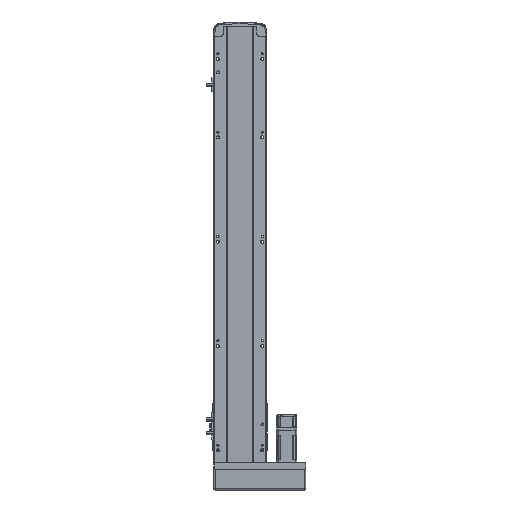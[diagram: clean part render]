
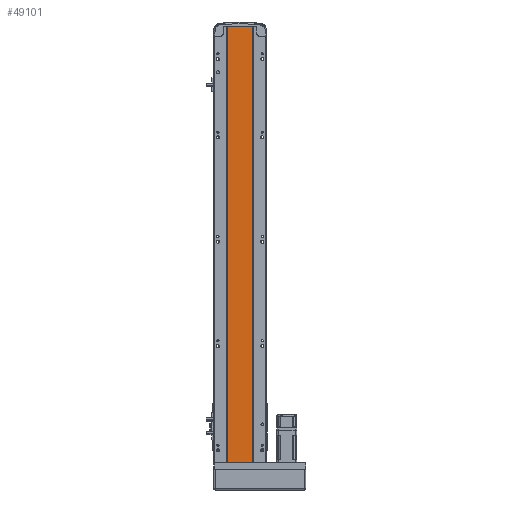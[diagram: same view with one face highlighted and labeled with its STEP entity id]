
A CAD part, front view. The second image highlights one B-rep face of the part: STEP entity #49101.
In plain terms, the highlighted planar face has unit normal (0, -1, 0).
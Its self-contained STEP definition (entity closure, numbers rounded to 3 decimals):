
#404 = FACE_OUTER_BOUND ( 'NONE', #24421, .T. ) ;
#674 = DIRECTION ( 'NONE',  ( 0., 0., -1. ) ) ;
#1092 = VECTOR ( 'NONE', #48972, 1000. ) ;
#2603 = VECTOR ( 'NONE', #674, 1000. ) ;
#3078 = CARTESIAN_POINT ( 'NONE',  ( -24.5, 2., 0. ) ) ;
#3079 = VECTOR ( 'NONE', #39915, 1000. ) ;
#3172 = ORIENTED_EDGE ( 'NONE', *, *, #41115, .F. ) ;
#3459 = DIRECTION ( 'NONE',  ( 0., 0., 1. ) ) ;
#6579 = CARTESIAN_POINT ( 'NONE',  ( 24.5, 2., 0. ) ) ;
#6709 = VECTOR ( 'NONE', #48455, 1000. ) ;
#8150 = CARTESIAN_POINT ( 'NONE',  ( 0., 2., 837. ) ) ;
#8730 = ORIENTED_EDGE ( 'NONE', *, *, #52390, .T. ) ;
#8773 = LINE ( 'NONE', #26479, #1092 ) ;
#15009 = LINE ( 'NONE', #58215, #3079 ) ;
#15170 = LINE ( 'NONE', #26313, #6709 ) ;
#15633 = EDGE_CURVE ( 'NONE', #32332, #25936, #15170, .T. ) ;
#16911 = CARTESIAN_POINT ( 'NONE',  ( 24.5, 2., 837. ) ) ;
#16988 = DIRECTION ( 'NONE',  ( 0., 1., 0. ) ) ;
#20834 = EDGE_CURVE ( 'NONE', #32332, #42608, #30699, .T. ) ;
#23422 = CARTESIAN_POINT ( 'NONE',  ( -24.5, 2., 837. ) ) ;
#24421 = EDGE_LOOP ( 'NONE', ( #8730, #3172, #37595, #42406 ) ) ;
#25936 = VERTEX_POINT ( 'NONE', #16911 ) ;
#26313 = CARTESIAN_POINT ( 'NONE',  ( -24.5, 2., 837. ) ) ;
#26479 = CARTESIAN_POINT ( 'NONE',  ( 0., 2., 0. ) ) ;
#30699 = LINE ( 'NONE', #23422, #2603 ) ;
#32332 = VERTEX_POINT ( 'NONE', #38691 ) ;
#37595 = ORIENTED_EDGE ( 'NONE', *, *, #15633, .F. ) ;
#38480 = AXIS2_PLACEMENT_3D ( 'NONE', #8150, #16988, #3459 ) ;
#38691 = CARTESIAN_POINT ( 'NONE',  ( -24.5, 2., 837. ) ) ;
#39915 = DIRECTION ( 'NONE',  ( 0., 0., -1. ) ) ;
#41115 = EDGE_CURVE ( 'NONE', #25936, #49828, #15009, .T. ) ;
#42406 = ORIENTED_EDGE ( 'NONE', *, *, #20834, .T. ) ;
#42608 = VERTEX_POINT ( 'NONE', #3078 ) ;
#48455 = DIRECTION ( 'NONE',  ( 1., 0., 0. ) ) ;
#48972 = DIRECTION ( 'NONE',  ( 1., 0., 0. ) ) ;
#49101 = ADVANCED_FACE ( 'NONE', ( #404 ), #53718, .F. ) ;
#49828 = VERTEX_POINT ( 'NONE', #6579 ) ;
#52390 = EDGE_CURVE ( 'NONE', #42608, #49828, #8773, .T. ) ;
#53718 = PLANE ( 'NONE',  #38480 ) ;
#58215 = CARTESIAN_POINT ( 'NONE',  ( 24.5, 2., 837. ) ) ;
